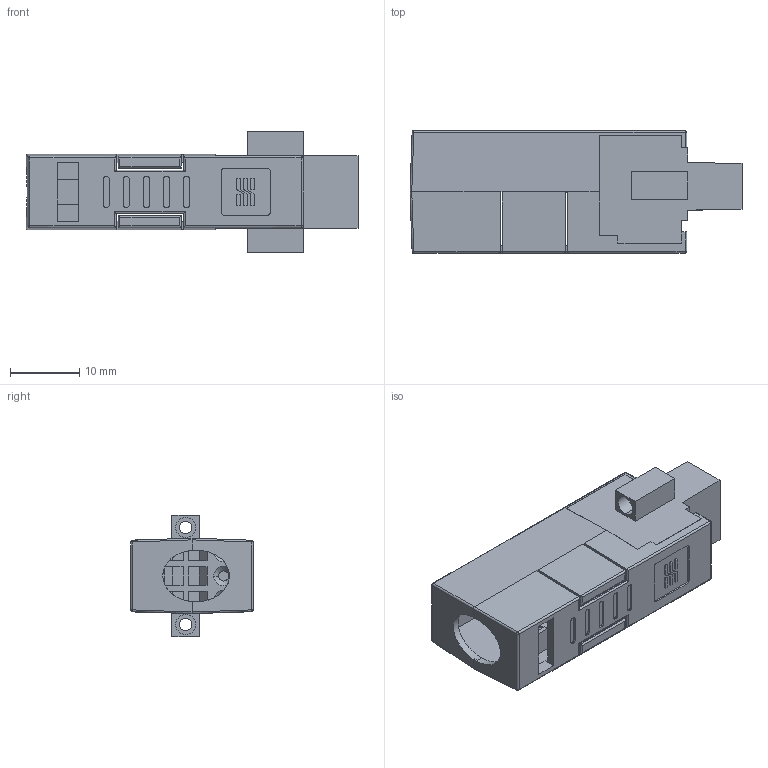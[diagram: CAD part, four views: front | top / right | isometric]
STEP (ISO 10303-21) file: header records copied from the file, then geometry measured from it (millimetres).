
FILE_DESCRIPTION((''),'2;1');
FILE_NAME('CONN_CRIO_6_POS_WEID_TB','2007-01-25T',('chrisj'),(''),'PRO/ENGINEER BY PARAMETRIC TECHNOLOGY CORPORATION, 2006080','PRO/ENGINEER BY PARAMETRIC TECHNOLOGY CORPORATION, 2006080','');
FILE_SCHEMA(('AUTOMOTIVE_DESIGN_CC2 { 1 2 10303 214 -1 1 5 2 }'));
Length unit declared in the file: inch
Products named in the file (1): CONN_CRIO_6_POS_WEID_TB
Bounding box: 47.9 x 17.65 x 17.5 mm (x, y, z)
Volume: 4375 mm3; surface area: 5026 mm2
Topology: 1 solids, 1 shells, 474 faces, 1215 edges, 767 vertices
Faces by surface type: plane 308, cylinder 144, cone 12, sphere 8, extrusion 2
Entity records: 14437 total; most frequent: CARTESIAN_POINT 2734, ORIENTED_EDGE 2430, DIRECTION 2391, EDGE_CURVE 1215, VECTOR 919, LINE 917, VERTEX_POINT 767, AXIS2_PLACEMENT_3D 736
